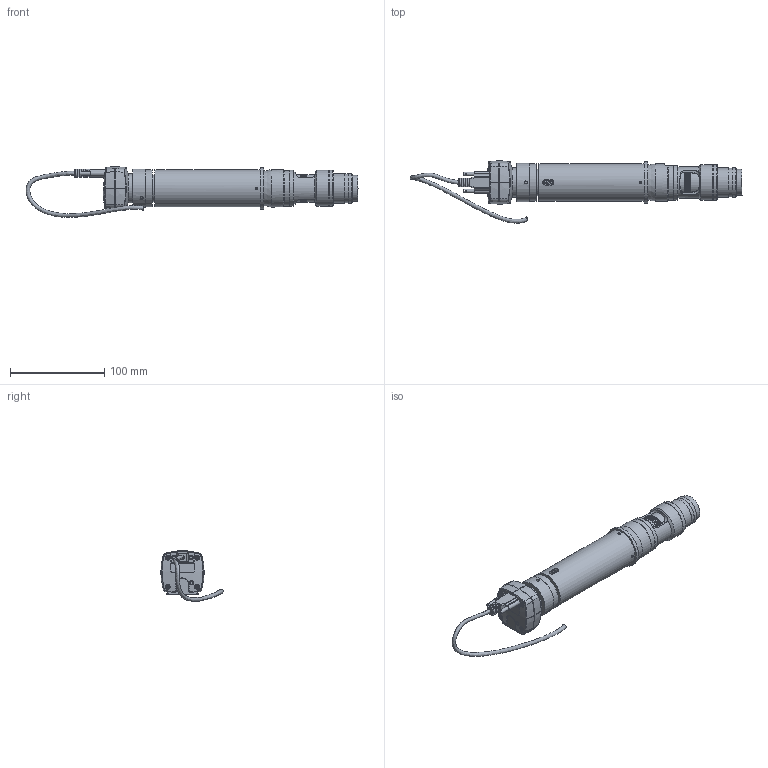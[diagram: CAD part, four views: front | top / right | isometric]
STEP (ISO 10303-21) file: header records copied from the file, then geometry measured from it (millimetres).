
FILE_DESCRIPTION(/* description */ (''),/* implementation_level */ '2;1');
FILE_NAME(/* name */ 'S:\Bureau-Technique\Vidéo\MA 730-Z1-184.stp',/* time_stamp */ '2018-09-27T13:56:17+02:00',/* author */ ('chu'),/* organization */ ('Marcel Aubert'),/* preprocessor_version */ 'ST-DEVELOPER v17.2',/* originating_system */ 'Autodesk Inventor 2019',/* authorisation */ '');
FILE_SCHEMA (('AUTOMOTIVE_DESIGN { 1 0 10303 214 3 1 1 }'));
Length unit declared in the file: millimetre
Products named in the file (1): Pièce1
Bounding box: 352.08 x 66.13 x 53.8 mm (x, y, z)
Volume: 221958 mm3; surface area: 72890.4 mm2
Topology: 1 solids, 10 shells, 1176 faces, 3289 edges, 2197 vertices
Faces by surface type: plane 598, cylinder 334, bspline 125, cone 56, torus 44, sphere 19
Full cylindrical faces by diameter (mm): 1.88 x4, 2 x3, 2.3 x2, 2.459 x9, 2.5 x2, 3 x2, 3.2 x3, 3.242 x5, 3.5 x4, 3.9 x2, 4 x3, 5 x2, 7.1 x2, 7.4 x2, 8.6 x3, 19 x2, 20 x2, 22.5 x1, 24.3 x1, 24.4 x1, 24.605 x2, 26 x2, 26.8 x3, 27.6 x1, 28 x2, 29.1 x1, 29.3 x1, 29.4 x1, 30.5 x1, 31 x2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
Entity records: 62365 total; most frequent: CARTESIAN_POINT 31182, ORIENTED_EDGE 6562, DIRECTION 5928, EDGE_CURVE 3281, VERTEX_POINT 2197, AXIS2_PLACEMENT_3D 2168, LINE 1592, VECTOR 1592
